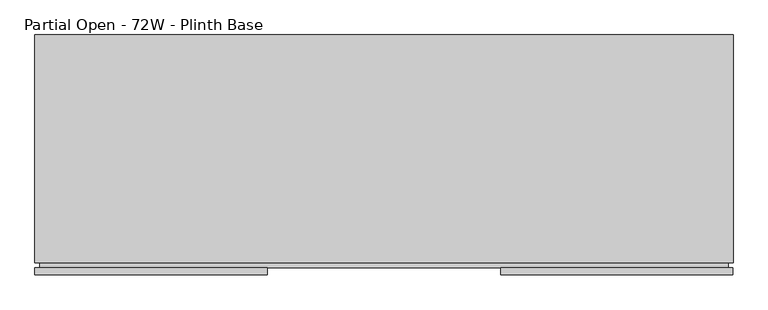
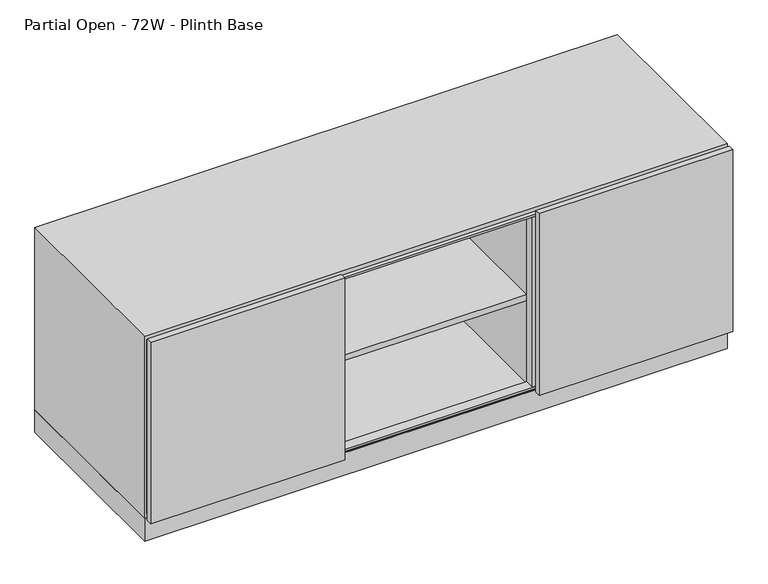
"""IFC4 building model written with IfcOpenShell, lengths in millimetres: furniture geometry, Steelcase Coalesse - Exponents - Storage - Credenza - 27H : Partial Open - 72W - Plinth Base."""

from ifc_helpers import new_model, si_unit, point, frame, frame_2d, origin, origin_with_axes, place, context, project, spatial, polyline, circle_curve, trimmed, segment, composite_curve, outline, extrude, faceted_brep, source, transform, mapped, element, save


def partial_open_72w_plinth_base_02432125(model_context):
    return source(origin(), model_context, "Body", "SolidModel", [
        faceted_brep([(6.35, 31.75, 673.1), (6.35, 31.75, 95.25), (6.35, 622.3, 95.25), (6.35, 622.3, 673.1), (1822.45, 622.3, 95.25), (1822.45, 622.3, 673.1), (1822.45, 31.75, 95.25), (1822.45, 31.75, 673.1), (0.0, 31.75, 82.55), (1828.8, 31.75, 82.55), (1828.8, 31.75, 685.8), (0.0, 31.75, 685.8), (1828.8, 628.65, 82.55), (1828.8, 628.65, 685.8), (0.0, 628.65, 82.55), (0.0, 628.65, 685.8)], [[[0, 1, 2, 3]], [[3, 2, 4, 5]], [[5, 4, 6, 7]], [[8, 9, 10, 11], [7, 6, 1, 0]], [[10, 9, 12, 13]], [[13, 12, 14, 15]], [[15, 14, 8, 11]], [[7, 0, 3, 5]], [[10, 13, 15, 11]], [[1, 6, 4, 2]], [[12, 9, 8, 14]]]),
        extrude(outline(polyline([(673.1, 1816.1), (673.1, 12.7), (95.25, 12.7), (95.25, 1816.1), (673.1, 1816.1)]), holes=[polyline([(666.75, 1809.75), (101.6, 1809.75), (101.6, 19.05), (666.75, 19.05), (666.75, 1809.75)])]), frame((0.0, 19.05, 0.0), z_axis=(0.0, 1.0, 0.0), x_axis=(0.0, 0.0, 1.0)), (0.0, 0.0, 1.0), 31.75),
        extrude(outline(composite_curve([segment(trimmed(circle_curve(frame_2d((19.05, 593.5667033)), 6.35), [point((12.7, 593.5667033))], [point((25.4, 593.5667033))], False, "CARTESIAN"), True, "CONTINUOUS"), segment(trimmed(circle_curve(frame_2d((19.05, 593.5667033)), 6.35), [point((25.4, 593.5667033))], [point((12.7, 593.5667033))], False, "CARTESIAN"), True, "CONTINUOUS")], self_intersect=False)), origin_with_axes(), (0.0, 0.0, 1.0), 6.35),
        extrude(outline(composite_curve([segment(trimmed(circle_curve(frame_2d((19.05, 66.7867854)), 6.35), [point((12.7, 66.7867854))], [point((25.4, 66.7867854))], False, "CARTESIAN"), True, "CONTINUOUS"), segment(trimmed(circle_curve(frame_2d((19.05, 66.7867854)), 6.35), [point((25.4, 66.7867854))], [point((12.7, 66.7867854))], False, "CARTESIAN"), True, "CONTINUOUS")], self_intersect=False)), origin_with_axes(), (0.0, 0.0, 1.0), 6.35),
        extrude(outline(composite_curve([segment(trimmed(circle_curve(frame_2d((1809.75, 593.5667033)), 6.35), [point((1803.4, 593.5667033))], [point((1816.1, 593.5667033))], False, "CARTESIAN"), True, "CONTINUOUS"), segment(trimmed(circle_curve(frame_2d((1809.75, 593.5667033)), 6.35), [point((1816.1, 593.5667033))], [point((1803.4, 593.5667033))], False, "CARTESIAN"), True, "CONTINUOUS")], self_intersect=False)), origin_with_axes(), (0.0, 0.0, 1.0), 6.35),
        extrude(outline(composite_curve([segment(trimmed(circle_curve(frame_2d((1809.75, 66.7867854)), 6.35), [point((1803.4, 66.7867854))], [point((1816.1, 66.7867854))], False, "CARTESIAN"), True, "CONTINUOUS"), segment(trimmed(circle_curve(frame_2d((1809.75, 66.7867854)), 6.35), [point((1816.1, 66.7867854))], [point((1803.4, 66.7867854))], False, "CARTESIAN"), True, "CONTINUOUS")], self_intersect=False)), origin_with_axes(), (0.0, 0.0, 1.0), 6.35),
        extrude(outline(polyline([(1827.8348, 19.05), (1827.8348, 0.0), (1220.0128, 0.0), (1220.0128, 19.05), (1827.8348, 19.05)])), frame((0.0, 0.0, 82.55), z_axis=(0.0, 0.0, 1.0), x_axis=(1.0, 0.0, 0.0)), (0.0, 0.0, 1.0), 603.25),
        extrude(outline(polyline([(608.965, 19.05), (608.965, 0.0), (0.0, 0.0), (0.0, 19.05), (608.965, 19.05)])), frame((0.0, 0.0, 82.55), z_axis=(0.0, 0.0, 1.0), x_axis=(1.0, 0.0, 0.0)), (0.0, 0.0, 1.0), 603.25),
        extrude(outline(polyline([(0.0, -19.05), (0.0, 0.0), (31.75, 0.0), (31.75, -19.05), (0.0, -19.05)])), frame((1209.675, 19.05, 101.6), z_axis=(3.1477043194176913e-12, 0.0, 1.0), x_axis=(0.0, 1.0, 0.0)), (0.0, 0.0, 1.0), 565.15),
        extrude(outline(polyline([(0.0, -19.05), (0.0, 0.0), (31.75, 0.0), (31.75, -19.05), (0.0, -19.05)])), frame((590.55, 19.05, 101.6), z_axis=(3.3608671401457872e-12, 0.0, 1.0), x_axis=(0.0, 1.0, 0.0)), (0.0, 0.0, 1.0), 565.15),
        extrude(outline(polyline([(1209.675, 609.6), (1228.725, 609.6), (1228.725, 50.8), (1209.675, 50.8), (1209.675, 609.6)])), frame((0.0, 0.0, 95.25), z_axis=(0.0, 0.0, 1.0), x_axis=(1.0, 0.0, 0.0)), (0.0, 0.0, 1.0), 577.85),
        extrude(outline(polyline([(1209.675, 50.8), (609.6, 50.8), (609.6, 609.6), (1209.675, 609.6), (1209.675, 50.8)])), frame((0.0, 0.0, 371.475), z_axis=(0.0, 0.0, 1.0), x_axis=(1.0, 0.0, 0.0)), (0.0, 0.0, 1.0), 19.05),
        extrude(outline(polyline([(1828.8, 628.65), (1828.8, 31.75), (0.0, 31.75), (0.0, 628.65), (1828.8, 628.65)]), holes=[polyline([(1809.75, 622.3), (19.05, 622.3), (19.05, 38.1), (1809.75, 38.1), (1809.75, 622.3)])]), frame((0.0, 0.0, 6.35), z_axis=(0.0, 0.0, 1.0), x_axis=(1.0, 0.0, 0.0)), (0.0, 0.0, 1.0), 73.4568),
        extrude(outline(polyline([(590.55, 609.6), (609.6, 609.6), (609.6, 50.8), (590.55, 50.8), (590.55, 609.6)])), frame((0.0, 0.0, 95.25), z_axis=(0.0, 0.0, 1.0), x_axis=(1.0, 0.0, 0.0)), (0.0, 0.0, 1.0), 577.85),
    ])


if __name__ == "__main__":
    model = new_model("IFC4")
    model_context = context("Model", 3, world=origin())
    ifc_project = project(units=[si_unit("LENGTHUNIT", "METRE", prefix="MILLI")], contexts=[model_context])
    site = spatial("IfcSite", under=ifc_project)
    building = spatial("IfcBuilding", under=site)
    placement = place(None, origin())
    partial_open_72w_plinth_base_shape = partial_open_72w_plinth_base_02432125(model_context)
    element("IfcFurniture", 1, ObjectType="Steelcase Coalesse - Exponents - Storage - Credenza - 27H : Partial Open - 72W - Plinth Base", at=placement, inside=building, context=model_context, shape_type="MappedRepresentation", body=[
        mapped(partial_open_72w_plinth_base_shape, transform((0.0, 0.0, 0.0), x_axis=(1.0, 0.0, 0.0), y_axis=(0.0, 1.0, 0.0), z_axis=(0.0, 0.0, 1.0))),
    ])
    save(model, "model.ifc")
